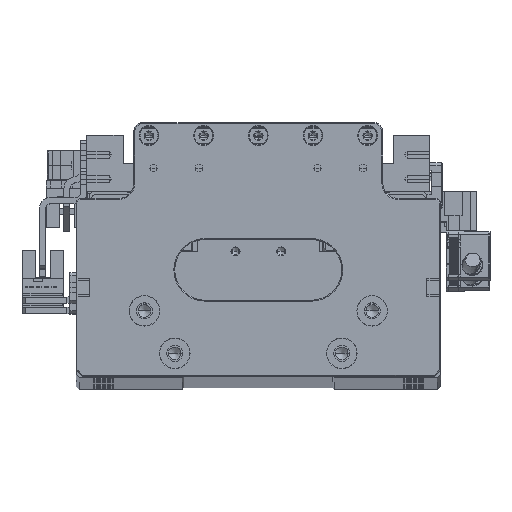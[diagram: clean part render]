
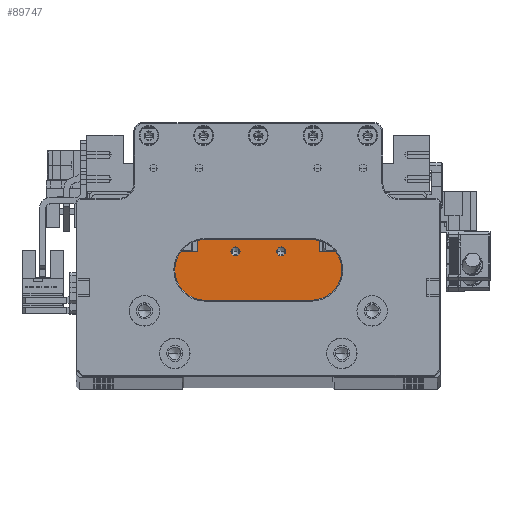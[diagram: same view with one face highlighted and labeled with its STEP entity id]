
A CAD part, top view. The second image highlights one B-rep face of the part: STEP entity #89747.
In plain terms, the highlighted planar face has unit normal (0, 0, 1).
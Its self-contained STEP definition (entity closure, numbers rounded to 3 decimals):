
#357 = DIRECTION ( 'NONE',  ( 0., 0., 1. ) ) ;
#1234 = FACE_BOUND ( 'NONE', #100255, .T. ) ;
#1632 = ORIENTED_EDGE ( 'NONE', *, *, #91358, .F. ) ;
#1939 = EDGE_CURVE ( 'NONE', #117106, #18428, #57135, .T. ) ;
#2079 = DIRECTION ( 'NONE',  ( 0., 0., 1. ) ) ;
#2953 = CARTESIAN_POINT ( 'NONE',  ( -20., 18.2, 83.854 ) ) ;
#6204 = ORIENTED_EDGE ( 'NONE', *, *, #14580, .F. ) ;
#8519 = AXIS2_PLACEMENT_3D ( 'NONE', #64097, #2079, #74510 ) ;
#8609 = CARTESIAN_POINT ( 'NONE',  ( 20., 18.2, 83.854 ) ) ;
#9113 = LINE ( 'NONE', #101109, #122476 ) ;
#10005 = VERTEX_POINT ( 'NONE', #67456 ) ;
#12566 = CARTESIAN_POINT ( 'NONE',  ( -7.5, 18.2, 83.854 ) ) ;
#13393 = ORIENTED_EDGE ( 'NONE', *, *, #107905, .F. ) ;
#14159 = VERTEX_POINT ( 'NONE', #15792 ) ;
#14580 = EDGE_CURVE ( 'NONE', #18428, #17871, #118811, .T. ) ;
#15208 = VECTOR ( 'NONE', #75344, 1000. ) ;
#15340 = ORIENTED_EDGE ( 'NONE', *, *, #59717, .F. ) ;
#15584 = AXIS2_PLACEMENT_3D ( 'NONE', #62368, #357, #72785 ) ;
#15792 = CARTESIAN_POINT ( 'NONE',  ( 9.025, 25.8, 83.854 ) ) ;
#16410 = EDGE_CURVE ( 'NONE', #18758, #10005, #120294, .T. ) ;
#16985 = ORIENTED_EDGE ( 'NONE', *, *, #16410, .F. ) ;
#17871 = VERTEX_POINT ( 'NONE', #92110 ) ;
#18428 = VERTEX_POINT ( 'NONE', #29092 ) ;
#18758 = VERTEX_POINT ( 'NONE', #117214 ) ;
#22928 = LINE ( 'NONE', #132153, #102251 ) ;
#23442 = CARTESIAN_POINT ( 'NONE',  ( -29.9, 6.5, 83.854 ) ) ;
#25709 = DIRECTION ( 'NONE',  ( 0., 0., 1. ) ) ;
#29092 = CARTESIAN_POINT ( 'NONE',  ( -20., 25.7, 83.854 ) ) ;
#29395 = VERTEX_POINT ( 'NONE', #49047 ) ;
#29638 = VECTOR ( 'NONE', #33604, 1000. ) ;
#30781 = DIRECTION ( 'NONE',  ( 1., 0., 0. ) ) ;
#31111 = AXIS2_PLACEMENT_3D ( 'NONE', #12566, #43763, #116178 ) ;
#32683 = CARTESIAN_POINT ( 'NONE',  ( 7.5, 25.8, 83.854 ) ) ;
#33604 = DIRECTION ( 'NONE',  ( 1., 0., 0. ) ) ;
#33826 = VECTOR ( 'NONE', #81480, 1000. ) ;
#33863 = VECTOR ( 'NONE', #103780, 1000. ) ;
#39159 = DIRECTION ( 'NONE',  ( 1., 0., 0. ) ) ;
#43044 = DIRECTION ( 'NONE',  ( 1., 0., 0. ) ) ;
#43443 = VECTOR ( 'NONE', #30781, 1000. ) ;
#43519 = CARTESIAN_POINT ( 'NONE',  ( -7.5, 25.7, 83.854 ) ) ;
#43763 = DIRECTION ( 'NONE',  ( 0., 0., -1. ) ) ;
#44822 = CARTESIAN_POINT ( 'NONE',  ( 5.975, 25.8, 83.854 ) ) ;
#49047 = CARTESIAN_POINT ( 'NONE',  ( 20., 29.7, 83.854 ) ) ;
#51270 = AXIS2_PLACEMENT_3D ( 'NONE', #87712, #25709, #98060 ) ;
#51646 = EDGE_CURVE ( 'NONE', #14159, #77294, #56957, .T. ) ;
#51915 = ORIENTED_EDGE ( 'NONE', *, *, #1939, .F. ) ;
#53081 = FACE_OUTER_BOUND ( 'NONE', #84845, .T. ) ;
#54637 = CARTESIAN_POINT ( 'NONE',  ( 20., 25.7, 83.854 ) ) ;
#56357 = FACE_BOUND ( 'NONE', #62515, .T. ) ;
#56957 = CIRCLE ( 'NONE', #86468, 1.525 ) ;
#57135 = LINE ( 'NONE', #43519, #29638 ) ;
#59158 = ORIENTED_EDGE ( 'NONE', *, *, #93539, .F. ) ;
#59717 = EDGE_CURVE ( 'NONE', #29395, #114528, #61307, .T. ) ;
#61034 = CARTESIAN_POINT ( 'NONE',  ( -7.5, 6.5, 83.854 ) ) ;
#61307 = LINE ( 'NONE', #8609, #33826 ) ;
#61832 = EDGE_CURVE ( 'NONE', #17871, #29395, #9113, .T. ) ;
#61856 = DIRECTION ( 'NONE',  ( 0., 1., 0. ) ) ;
#62368 = CARTESIAN_POINT ( 'NONE',  ( -7.5, 25.8, 83.854 ) ) ;
#62515 = EDGE_LOOP ( 'NONE', ( #125123, #59158 ) ) ;
#63423 = VERTEX_POINT ( 'NONE', #100443 ) ;
#64097 = CARTESIAN_POINT ( 'NONE',  ( -7.5, 25.8, 83.854 ) ) ;
#67335 = VERTEX_POINT ( 'NONE', #103199 ) ;
#67456 = CARTESIAN_POINT ( 'NONE',  ( -9.025, 25.8, 83.854 ) ) ;
#70076 = DIRECTION ( 'NONE',  ( 1., 0., 0. ) ) ;
#70552 = CARTESIAN_POINT ( 'NONE',  ( -29.9, 25.7, 83.854 ) ) ;
#70939 = LINE ( 'NONE', #61034, #43443 ) ;
#71818 = CARTESIAN_POINT ( 'NONE',  ( -29.9, 18.2, 83.854 ) ) ;
#72493 = CARTESIAN_POINT ( 'NONE',  ( 29.9, 18.2, 83.854 ) ) ;
#72785 = DIRECTION ( 'NONE',  ( 1., 0., 0. ) ) ;
#73976 = VECTOR ( 'NONE', #61856, 1000. ) ;
#74510 = DIRECTION ( 'NONE',  ( 1., 0., 0. ) ) ;
#74703 = ORIENTED_EDGE ( 'NONE', *, *, #108461, .T. ) ;
#75151 = CIRCLE ( 'NONE', #51270, 1.525 ) ;
#75344 = DIRECTION ( 'NONE',  ( 0., 1., 0. ) ) ;
#77294 = VERTEX_POINT ( 'NONE', #44822 ) ;
#79990 = VERTEX_POINT ( 'NONE', #23442 ) ;
#80514 = LINE ( 'NONE', #71818, #73976 ) ;
#81480 = DIRECTION ( 'NONE',  ( 0., -1., 0. ) ) ;
#84845 = EDGE_LOOP ( 'NONE', ( #51915, #1632, #74703, #13393, #99892, #15340, #94014, #6204 ) ) ;
#85684 = ORIENTED_EDGE ( 'NONE', *, *, #124196, .F. ) ;
#86468 = AXIS2_PLACEMENT_3D ( 'NONE', #32683, #105080, #43044 ) ;
#87712 = CARTESIAN_POINT ( 'NONE',  ( 7.5, 25.8, 83.854 ) ) ;
#89747 = ADVANCED_FACE ( 'NONE', ( #53081, #56357, #1234 ), #105788, .F. ) ;
#91358 = EDGE_CURVE ( 'NONE', #79990, #117106, #80514, .T. ) ;
#92110 = CARTESIAN_POINT ( 'NONE',  ( -20., 29.7, 83.854 ) ) ;
#92133 = LINE ( 'NONE', #72493, #33863 ) ;
#93539 = EDGE_CURVE ( 'NONE', #77294, #14159, #75151, .T. ) ;
#94014 = ORIENTED_EDGE ( 'NONE', *, *, #61832, .F. ) ;
#95916 = EDGE_CURVE ( 'NONE', #114528, #67335, #22928, .T. ) ;
#98060 = DIRECTION ( 'NONE',  ( 1., 0., 0. ) ) ;
#99892 = ORIENTED_EDGE ( 'NONE', *, *, #95916, .F. ) ;
#100255 = EDGE_LOOP ( 'NONE', ( #16985, #85684 ) ) ;
#100443 = CARTESIAN_POINT ( 'NONE',  ( 29.9, 6.5, 83.854 ) ) ;
#101109 = CARTESIAN_POINT ( 'NONE',  ( -7.5, 29.7, 83.854 ) ) ;
#102251 = VECTOR ( 'NONE', #70076, 1000. ) ;
#103199 = CARTESIAN_POINT ( 'NONE',  ( 29.9, 25.7, 83.854 ) ) ;
#103780 = DIRECTION ( 'NONE',  ( 0., -1., 0. ) ) ;
#105080 = DIRECTION ( 'NONE',  ( 0., 0., 1. ) ) ;
#105788 = PLANE ( 'NONE',  #31111 ) ;
#107905 = EDGE_CURVE ( 'NONE', #67335, #63423, #92133, .T. ) ;
#108461 = EDGE_CURVE ( 'NONE', #79990, #63423, #70939, .T. ) ;
#114528 = VERTEX_POINT ( 'NONE', #54637 ) ;
#116020 = CIRCLE ( 'NONE', #15584, 1.525 ) ;
#116178 = DIRECTION ( 'NONE',  ( -1., 0., 0. ) ) ;
#117106 = VERTEX_POINT ( 'NONE', #70552 ) ;
#117214 = CARTESIAN_POINT ( 'NONE',  ( -5.975, 25.8, 83.854 ) ) ;
#118811 = LINE ( 'NONE', #2953, #15208 ) ;
#120294 = CIRCLE ( 'NONE', #8519, 1.525 ) ;
#122476 = VECTOR ( 'NONE', #39159, 1000. ) ;
#124196 = EDGE_CURVE ( 'NONE', #10005, #18758, #116020, .T. ) ;
#125123 = ORIENTED_EDGE ( 'NONE', *, *, #51646, .F. ) ;
#132153 = CARTESIAN_POINT ( 'NONE',  ( -7.5, 25.7, 83.854 ) ) ;
